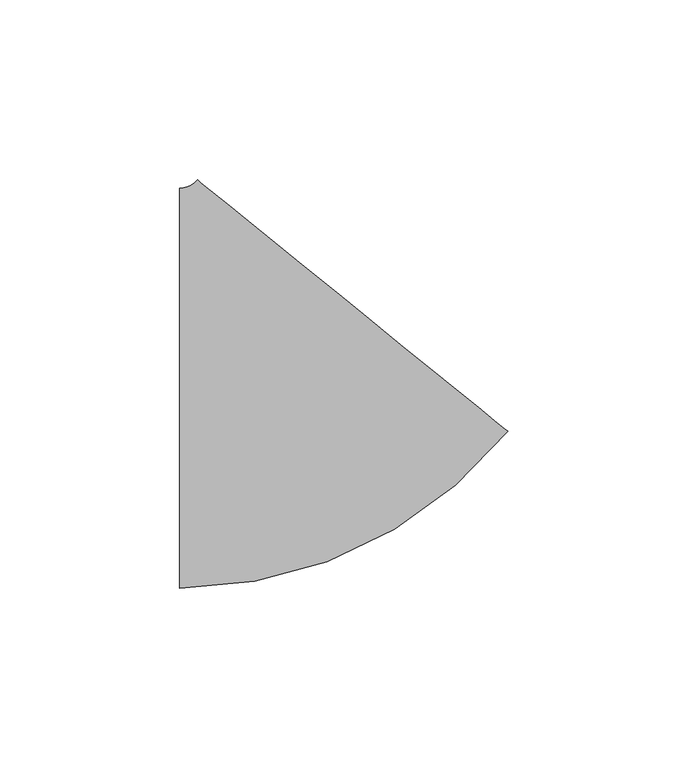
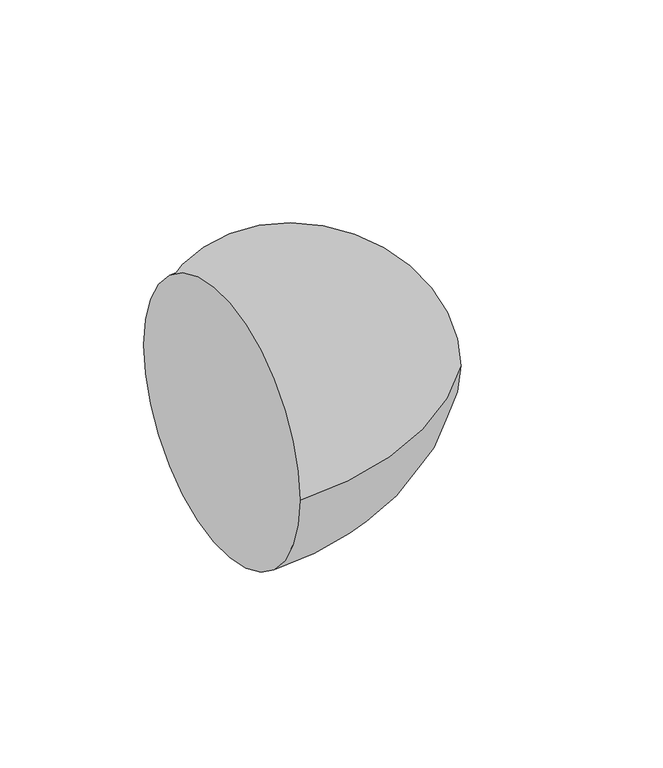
"""IFC4 building model written with IfcOpenShell, lengths in millimetres: pipe fitting geometry, M_Codo - Genérico : Estándar."""

from ifc_helpers import new_model, si_unit, point, frame, origin, place, context, project, spatial, circle_curve, ellipse_curve, trimmed, source, transform, mapped, element, save
from ifc_brep_helpers import plane_surface, revolved_surface, advanced_brep


def pipe_fitting_eed82e3f(model_context):
    return source(origin(), model_context, "Body", "AdvancedBrep", [
        advanced_brep(
        [(-29.5421877, -55.5875, 0.0), (-29.5421877, 55.5875, 0.0), (61.7909491, -12.0245426, 0.0), (-24.6073618, 57.9412526, 0.0)],
        [
            (0, 1, circle_curve(frame((-29.5421877, 0.0, 0.0), z_axis=(-1.0, 0.0, 0.0), x_axis=(0.0, 1.0, 0.0)), 55.5875)),
            (1, 0, circle_curve(frame((-29.5421877, 0.0, 0.0), z_axis=(-1.0, 0.0, 0.0), x_axis=(0.0, 1.0, 0.0)), 55.5875)),
            (2, 3, circle_curve(frame((18.5917936, 22.958355, 0.0), z_axis=(0.6293302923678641, 0.7771379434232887, 0.0), x_axis=(-0.7771379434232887, 0.6293302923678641, 0.0)), 55.5875)),
            (3, 2, circle_curve(frame((18.5917936, 22.958355, 0.0), z_axis=(0.6293302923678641, 0.7771379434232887, 0.0), x_axis=(-0.7771379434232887, 0.6293302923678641, 0.0)), 55.5875)),
            (3, 1, circle_curve(frame((-29.5421877, 61.9375, 0.0), z_axis=(0.0, 0.0, -1.0), x_axis=(0.0, -1.0, 0.0)), 6.35)),
            (0, 2, circle_curve(frame((-29.5421877, 61.9375, 0.0), z_axis=(0.0, 0.0, 1.0), x_axis=(0.0, -1.0, 0.0)), 117.525)),
        ],
        [
            plane_surface(frame((-29.5421877, 0.0, 0.0), z_axis=(-1.0, 0.0, 0.0), x_axis=(0.0, 0.0, 1.0))),
            plane_surface(frame((18.5917936, 22.958355, 0.0), z_axis=(0.629330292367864, 0.7771379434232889, 0.0), x_axis=(0.0, 0.0, 1.0))),
            revolved_surface(trimmed(ellipse_curve(frame((-29.5421877, 0.0, 0.0), z_axis=(-1.0, 0.0, 0.0), x_axis=(0.0, 1.0, 0.0)), 55.5875, 55.5875), [point((-29.5421877, -55.5875, 0.0))], [point((-29.5421877, 55.5875, 0.0))], True, "CARTESIAN"), (-29.5421877, 61.9375, 0.0), (0.0, 0.0, 1.0)),
            revolved_surface(trimmed(ellipse_curve(frame((-29.5421877, 0.0, 0.0), z_axis=(-1.0, 0.0, 0.0), x_axis=(0.0, 1.0, 0.0)), 55.5875, 55.5875), [point((-29.5421877, 55.5875, 0.0))], [point((-29.5421877, -55.5875, 0.0))], True, "CARTESIAN"), (-29.5421877, 61.9375, 0.0), (0.0, 0.0, 1.0)),
        ],
        [
            (0, [[1, 2]]),
            (1, [[3, 4]]),
            (2, [[5, -1, 6, -4]]),
            (3, [[-6, -2, -5, -3]]),
        ],
    ),
    ])


if __name__ == "__main__":
    model = new_model("IFC4")
    model_context = context("Model", 3, world=origin())
    ifc_project = project(units=[si_unit("LENGTHUNIT", "METRE", prefix="MILLI")], contexts=[model_context])
    site = spatial("IfcSite", under=ifc_project)
    building = spatial("IfcBuilding", under=site)
    placement = place(None, origin())
    pipe_fitting_shape = pipe_fitting_eed82e3f(model_context)
    element("IfcPipeFitting", 1, ObjectType="M_Codo - Genérico : Estándar", at=placement, inside=building, context=model_context, shape_type="MappedRepresentation", body=[
        mapped(pipe_fitting_shape, transform((0.0, 0.0, 0.0), x_axis=(1.0, 0.0, 0.0), y_axis=(0.0, 1.0, 0.0), z_axis=(0.0, 0.0, 1.0))),
    ])
    save(model, "model.ifc")
